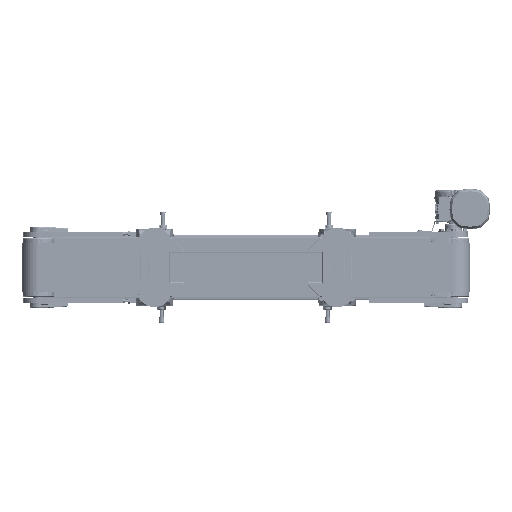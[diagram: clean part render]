
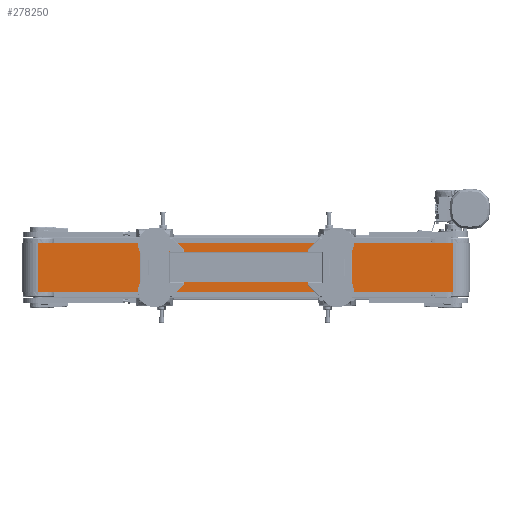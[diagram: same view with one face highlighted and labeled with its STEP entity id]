
A CAD part, front view. The second image highlights one B-rep face of the part: STEP entity #278250.
In plain terms, the highlighted planar face has unit normal (0, -1, 0).
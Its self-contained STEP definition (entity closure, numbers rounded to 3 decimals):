
#13760 = VECTOR ( 'NONE', #253084, 1000. ) ;
#18282 = CARTESIAN_POINT ( 'NONE',  ( 625., -49.5, 75. ) ) ;
#22066 = DIRECTION ( 'NONE',  ( 0., 1., 0. ) ) ;
#24466 = VECTOR ( 'NONE', #191261, 1000. ) ;
#26085 = CARTESIAN_POINT ( 'NONE',  ( -625., -49.5, 75. ) ) ;
#40728 = DIRECTION ( 'NONE',  ( 0., 0., 1. ) ) ;
#63748 = VECTOR ( 'NONE', #273958, 1000. ) ;
#70521 = CARTESIAN_POINT ( 'NONE',  ( 625., -49.5, 75. ) ) ;
#84542 = EDGE_CURVE ( 'NONE', #270444, #224601, #108811, .T. ) ;
#85578 = EDGE_CURVE ( 'NONE', #270444, #210515, #260709, .T. ) ;
#87367 = ORIENTED_EDGE ( 'NONE', *, *, #84542, .F. ) ;
#95201 = LINE ( 'NONE', #70521, #101754 ) ;
#101754 = VECTOR ( 'NONE', #286536, 1000. ) ;
#107160 = EDGE_CURVE ( 'NONE', #210515, #287665, #279282, .T. ) ;
#108811 = LINE ( 'NONE', #131980, #63748 ) ;
#109722 = AXIS2_PLACEMENT_3D ( 'NONE', #184230, #22066, #40728 ) ;
#131980 = CARTESIAN_POINT ( 'NONE',  ( -625., -49.5, 75. ) ) ;
#167228 = CARTESIAN_POINT ( 'NONE',  ( 625., -49.5, -75. ) ) ;
#179788 = EDGE_LOOP ( 'NONE', ( #205115, #291105, #87367, #303301 ) ) ;
#181192 = FACE_OUTER_BOUND ( 'NONE', #179788, .T. ) ;
#184230 = CARTESIAN_POINT ( 'NONE',  ( -625., -49.5, 75. ) ) ;
#185747 = PLANE ( 'NONE',  #109722 ) ;
#191261 = DIRECTION ( 'NONE',  ( 0., 0., -1. ) ) ;
#205115 = ORIENTED_EDGE ( 'NONE', *, *, #107160, .T. ) ;
#209912 = EDGE_CURVE ( 'NONE', #224601, #287665, #95201, .T. ) ;
#210515 = VERTEX_POINT ( 'NONE', #216732 ) ;
#216732 = CARTESIAN_POINT ( 'NONE',  ( -625., -49.5, -75. ) ) ;
#224601 = VERTEX_POINT ( 'NONE', #18282 ) ;
#231461 = CARTESIAN_POINT ( 'NONE',  ( -625., -49.5, -75. ) ) ;
#253084 = DIRECTION ( 'NONE',  ( 1., 0., 0. ) ) ;
#260709 = LINE ( 'NONE', #26085, #24466 ) ;
#270444 = VERTEX_POINT ( 'NONE', #298422 ) ;
#273958 = DIRECTION ( 'NONE',  ( 1., 0., 0. ) ) ;
#278250 = ADVANCED_FACE ( 'NONE', ( #181192 ), #185747, .F. ) ;
#279282 = LINE ( 'NONE', #231461, #13760 ) ;
#286536 = DIRECTION ( 'NONE',  ( 0., 0., -1. ) ) ;
#287665 = VERTEX_POINT ( 'NONE', #167228 ) ;
#291105 = ORIENTED_EDGE ( 'NONE', *, *, #209912, .F. ) ;
#298422 = CARTESIAN_POINT ( 'NONE',  ( -625., -49.5, 75. ) ) ;
#303301 = ORIENTED_EDGE ( 'NONE', *, *, #85578, .T. ) ;
